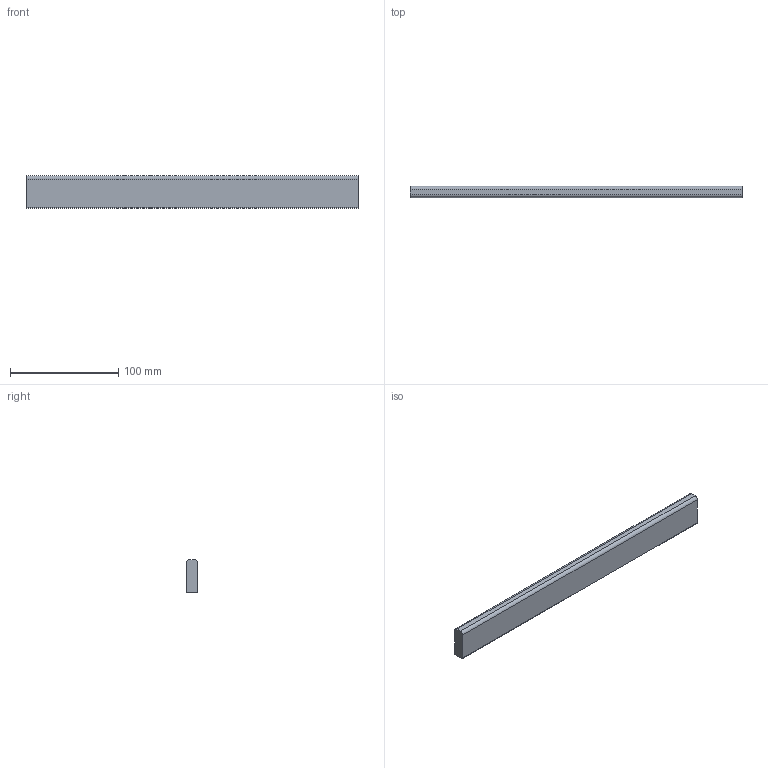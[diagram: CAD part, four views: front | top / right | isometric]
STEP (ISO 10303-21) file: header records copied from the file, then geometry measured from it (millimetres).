
FILE_DESCRIPTION (( 'STEP AP214' ), '1' );
FILE_NAME ('_Querreling_KAB-400_KS-19.step', '2010-08-26T14:58:34', ( 'grass' ), ( '' ), 'SwSTEP 2.0', 'SolidWorks 2009', '' );
FILE_SCHEMA (( 'AUTOMOTIVE_DESIGN' ));
Length unit declared in the file: millimetre
Products named in the file (1): _Querreling_KAB-400_KS-19
Bounding box: 306.5 x 10.5 x 30 mm (x, y, z)
Volume: 95232 mm3; surface area: 24395.5 mm2
Topology: 1 solids, 1 shells, 10 faces, 24 edges, 16 vertices
Faces by surface type: plane 6, cylinder 4
Entity records: 330 total; most frequent: DIRECTION 54, CARTESIAN_POINT 51, ORIENTED_EDGE 48, EDGE_CURVE 24, AXIS2_PLACEMENT_3D 19, VECTOR 16, LINE 16, VERTEX_POINT 16
